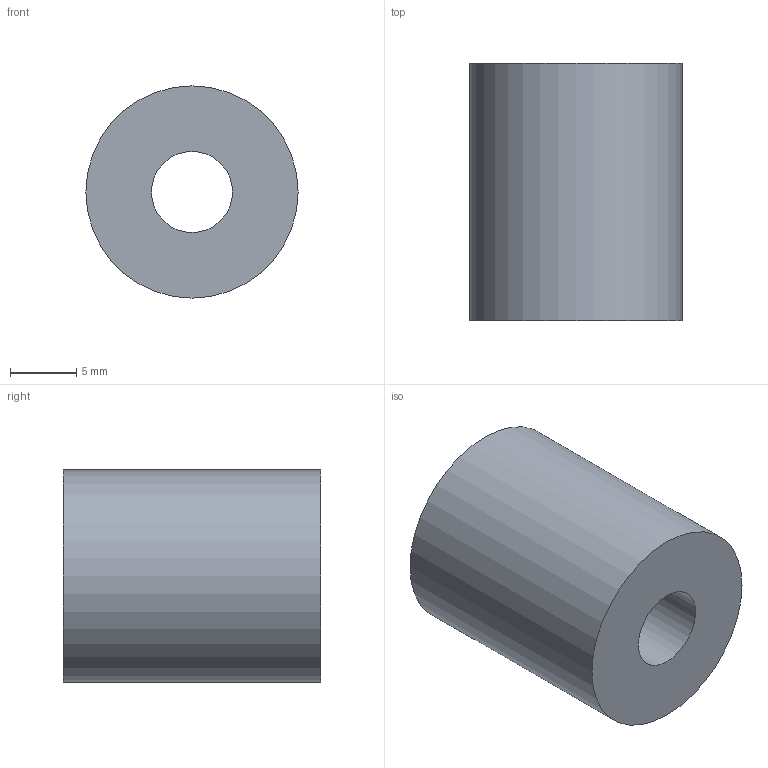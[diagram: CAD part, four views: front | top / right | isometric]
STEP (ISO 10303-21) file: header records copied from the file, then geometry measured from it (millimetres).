
FILE_DESCRIPTION(('Open CASCADE Model'),'2;1');
FILE_NAME('Open CASCADE Shape Model','2026-10-17T22:15:36',('Author'),( 'Open CASCADE'),'Open CASCADE STEP processor 7.9','Open CASCADE 7.9' ,'Unknown');
FILE_SCHEMA(('AUTOMOTIVE_DESIGN { 1 0 10303 214 1 1 1 1 }'));
Length unit declared in the file: millimetre
Products named in the file (1): Open CASCADE STEP translator 7.9 16
Bounding box: 16 x 19.4 x 16 mm (x, y, z)
Volume: 3333.6 mm3; surface area: 1690.6 mm2
Topology: 1 solids, 1 shells, 4 faces, 6 edges, 4 vertices
Faces by surface type: cylinder 2, plane 2
Full cylindrical faces by diameter (mm): 6.1 x1, 16 x1
Entity records: 192 total; most frequent: CARTESIAN_POINT 39, DIRECTION 30, ORIENTED_EDGE 12, PCURVE 12, DEFINITIONAL_REPRESENTATION 12, LINE 10, VECTOR 10, AXIS2_PLACEMENT_3D 9
